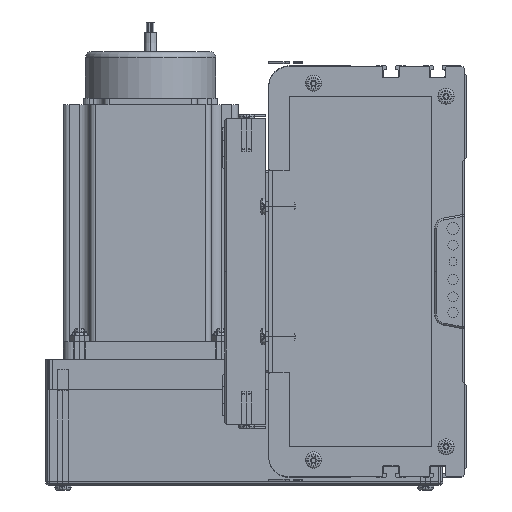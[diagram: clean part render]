
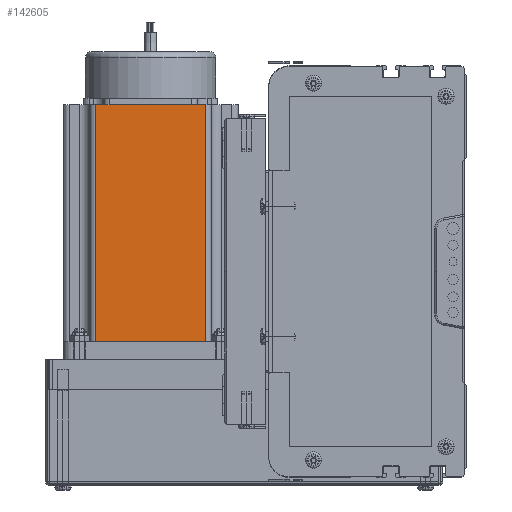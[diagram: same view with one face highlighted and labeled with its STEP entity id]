
A CAD part, left-side view. The second image highlights one B-rep face of the part: STEP entity #142605.
In plain terms, the highlighted planar face has unit normal (-1, 0, 0) as drawn and (0, -1, 0) by its records, which use the part's own axes.
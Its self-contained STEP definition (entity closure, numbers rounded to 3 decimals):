
#20560 = CARTESIAN_POINT ( 'NONE',  ( 16.16, 0., 116.5 ) ) ;
#20561 = LINE ( 'NONE', #20560, #20670 ) ;
#20664 = DIRECTION ( 'NONE',  ( 1., 0., 0. ) ) ;
#20666 = VECTOR ( 'NONE', #20664, 1000. ) ;
#20669 = DIRECTION ( 'NONE',  ( 0., 0., -1. ) ) ;
#20670 = VECTOR ( 'NONE', #20669, 1000. ) ;
#20677 = CARTESIAN_POINT ( 'NONE',  ( 0., 0., 116.5 ) ) ;
#20679 = LINE ( 'NONE', #20677, #20666 ) ;
#21348 = PLANE ( 'NONE',  #21422 ) ;
#21404 = DIRECTION ( 'NONE',  ( 0., 0., 1. ) ) ;
#21405 = DIRECTION ( 'NONE',  ( 0., 1., 0. ) ) ;
#21406 = CARTESIAN_POINT ( 'NONE',  ( 0., 0., 116.5 ) ) ;
#21413 = FACE_OUTER_BOUND ( 'NONE', #142600, .T. ) ;
#21422 = AXIS2_PLACEMENT_3D ( 'NONE', #21406, #21405, #21404 ) ;
#22130 = CARTESIAN_POINT ( 'NONE',  ( 69.74, 0., 116.5 ) ) ;
#22680 = CARTESIAN_POINT ( 'NONE',  ( 16.16, 0., 0. ) ) ;
#22694 = CARTESIAN_POINT ( 'NONE',  ( 69.74, 0., 0. ) ) ;
#22725 = CARTESIAN_POINT ( 'NONE',  ( 0., 0., 0. ) ) ;
#22726 = LINE ( 'NONE', #22725, #22793 ) ;
#22789 = DIRECTION ( 'NONE',  ( 1., 0., 0. ) ) ;
#22793 = VECTOR ( 'NONE', #22789, 1000. ) ;
#23717 = DIRECTION ( 'NONE',  ( 0., 0., 1. ) ) ;
#23718 = VECTOR ( 'NONE', #23717, 1000. ) ;
#23719 = CARTESIAN_POINT ( 'NONE',  ( 69.74, 0., 116.5 ) ) ;
#23720 = LINE ( 'NONE', #23719, #23718 ) ;
#24025 = CARTESIAN_POINT ( 'NONE',  ( 16.16, 0., 116.5 ) ) ;
#142430 = EDGE_CURVE ( 'NONE', #143748, #142929, #20679, .T. ) ;
#142434 = EDGE_CURVE ( 'NONE', #143748, #143133, #20561, .T. ) ;
#142600 = EDGE_LOOP ( 'NONE', ( #142804, #143681, #143894, #143141 ) ) ;
#142605 = ADVANCED_FACE ( 'NONE', ( #21413 ), #21348, .F. ) ;
#142804 = ORIENTED_EDGE ( 'NONE', *, *, #143158, .T. ) ;
#142929 = VERTEX_POINT ( 'NONE', #22130 ) ;
#143133 = VERTEX_POINT ( 'NONE', #22680 ) ;
#143135 = VERTEX_POINT ( 'NONE', #22694 ) ;
#143141 = ORIENTED_EDGE ( 'NONE', *, *, #142434, .T. ) ;
#143158 = EDGE_CURVE ( 'NONE', #143133, #143135, #22726, .T. ) ;
#143671 = EDGE_CURVE ( 'NONE', #143135, #142929, #23720, .T. ) ;
#143681 = ORIENTED_EDGE ( 'NONE', *, *, #143671, .T. ) ;
#143748 = VERTEX_POINT ( 'NONE', #24025 ) ;
#143894 = ORIENTED_EDGE ( 'NONE', *, *, #142430, .F. ) ;
